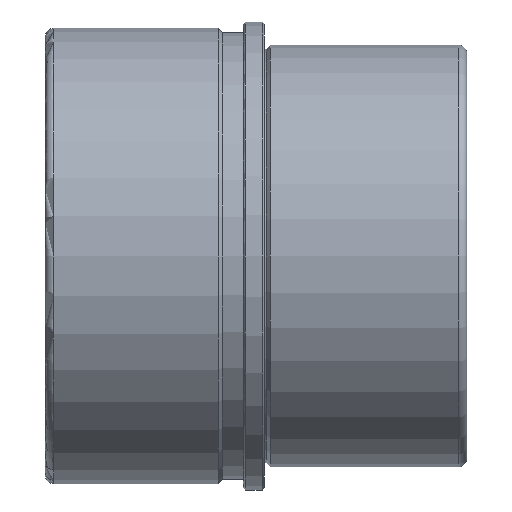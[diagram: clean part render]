
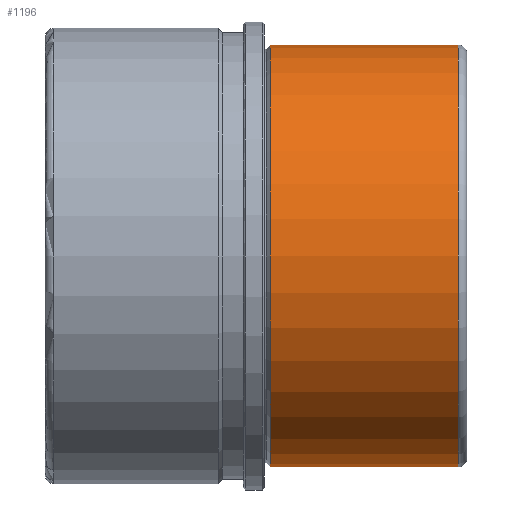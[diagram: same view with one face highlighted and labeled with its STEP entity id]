
A CAD part, front view. The second image highlights one B-rep face of the part: STEP entity #1196.
In plain terms, the highlighted cylindrical face has radius 50 mm (diameter 100 mm), a partial arc.
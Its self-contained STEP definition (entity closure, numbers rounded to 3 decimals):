
#954=CARTESIAN_POINT('Vertex',(46.,0.,50.)) ;
#961=CARTESIAN_POINT('Vertex',(46.,0.,-50.)) ;
#990=CARTESIAN_POINT('Axis2P3D Location',(46.,0.,0.)) ;
#994=CARTESIAN_POINT('Vertex',(46.,-50.,0.)) ;
#997=CARTESIAN_POINT('Axis2P3D Location',(46.,0.,0.)) ;
#1136=CARTESIAN_POINT('Line Origine',(48.,0.,50.)) ;
#1140=CARTESIAN_POINT('Vertex',(1.414,0.,50.)) ;
#1143=CARTESIAN_POINT('Line Origine',(48.,0.,-50.)) ;
#1147=CARTESIAN_POINT('Vertex',(1.414,0.,-50.)) ;
#1171=CARTESIAN_POINT('Axis2P3D Location',(48.,0.,0.)) ;
#1176=CARTESIAN_POINT('Axis2P3D Location',(1.414,0.,0.)) ;
#1180=CARTESIAN_POINT('Vertex',(1.414,-50.,0.)) ;
#1183=CARTESIAN_POINT('Axis2P3D Location',(1.414,0.,0.)) ;
#991=DIRECTION('Axis2P3D Direction',(1.,0.,-0.)) ;
#998=DIRECTION('Axis2P3D Direction',(1.,0.,-0.)) ;
#1137=DIRECTION('Vector Direction',(-1.,0.,0.)) ;
#1144=DIRECTION('Vector Direction',(-1.,0.,0.)) ;
#1172=DIRECTION('Axis2P3D Direction',(-1.,-0.,-0.)) ;
#1173=DIRECTION('Axis2P3D XDirection',(0.,0.,-1.)) ;
#1177=DIRECTION('Axis2P3D Direction',(-1.,-0.,-0.)) ;
#1184=DIRECTION('Axis2P3D Direction',(-1.,-0.,-0.)) ;
#992=AXIS2_PLACEMENT_3D('Circle Axis2P3D',#990,#991,$) ;
#999=AXIS2_PLACEMENT_3D('Circle Axis2P3D',#997,#998,$) ;
#1174=AXIS2_PLACEMENT_3D('Cylinder Axis2P3D',#1171,#1172,#1173) ;
#1178=AXIS2_PLACEMENT_3D('Circle Axis2P3D',#1176,#1177,$) ;
#1185=AXIS2_PLACEMENT_3D('Circle Axis2P3D',#1183,#1184,$) ;
#1189=ORIENTED_EDGE('',*,*,#1149,.T.) ;
#1190=ORIENTED_EDGE('',*,*,#1001,.F.) ;
#1191=ORIENTED_EDGE('',*,*,#996,.F.) ;
#1192=ORIENTED_EDGE('',*,*,#1142,.T.) ;
#1193=ORIENTED_EDGE('',*,*,#1182,.T.) ;
#1194=ORIENTED_EDGE('',*,*,#1187,.T.) ;
#1138=VECTOR('Line Direction',#1137,1.) ;
#1145=VECTOR('Line Direction',#1144,1.) ;
#1196=ADVANCED_FACE('FAMO-SF1-C80 x 100',(#1195),#1175,.T.) ;
#993=CIRCLE('generated circle',#992,50.) ;
#1000=CIRCLE('generated circle',#999,50.) ;
#1179=CIRCLE('generated circle',#1178,50.) ;
#1186=CIRCLE('generated circle',#1185,50.) ;
#1175=CYLINDRICAL_SURFACE('generated cylinder',#1174,50.) ;
#996=EDGE_CURVE('',#955,#995,#993,.T.) ;
#1001=EDGE_CURVE('',#995,#962,#1000,.T.) ;
#1142=EDGE_CURVE('',#955,#1141,#1139,.T.) ;
#1149=EDGE_CURVE('',#1148,#962,#1146,.F.) ;
#1182=EDGE_CURVE('',#1141,#1181,#1179,.F.) ;
#1187=EDGE_CURVE('',#1181,#1148,#1186,.F.) ;
#1188=EDGE_LOOP('',(#1189,#1190,#1191,#1192,#1193,#1194)) ;
#1195=FACE_OUTER_BOUND('',#1188,.T.) ;
#1139=LINE('Line',#1136,#1138) ;
#1146=LINE('Line',#1143,#1145) ;
#955=VERTEX_POINT('',#954) ;
#962=VERTEX_POINT('',#961) ;
#995=VERTEX_POINT('',#994) ;
#1141=VERTEX_POINT('',#1140) ;
#1148=VERTEX_POINT('',#1147) ;
#1181=VERTEX_POINT('',#1180) ;
